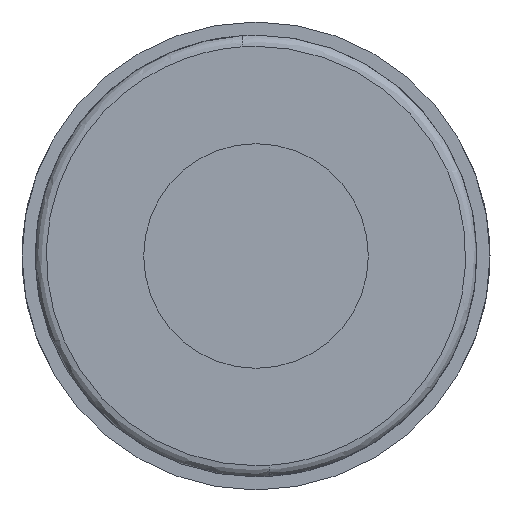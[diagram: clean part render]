
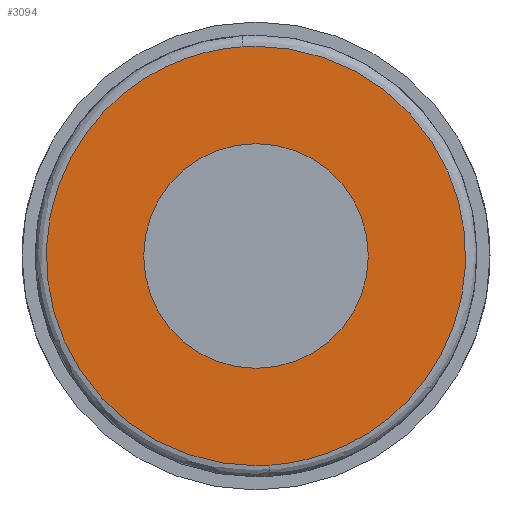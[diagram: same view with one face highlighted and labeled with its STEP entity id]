
A CAD part, left-side view. The second image highlights one B-rep face of the part: STEP entity #3094.
In plain terms, the highlighted planar face has unit normal (-1, 0, 0).
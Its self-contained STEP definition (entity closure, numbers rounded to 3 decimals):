
#88 = CARTESIAN_POINT ( 'NONE',  ( -21.25, -0.346, -5.589 ) ) ;
#107 = ORIENTED_EDGE ( 'NONE', *, *, #479, .F. ) ;
#115 = CARTESIAN_POINT ( 'NONE',  ( -21.25, -0.346, -5.589 ) ) ;
#128 = PLANE ( 'NONE',  #3159 ) ;
#191 = ORIENTED_EDGE ( 'NONE', *, *, #1093, .F. ) ;
#259 = CARTESIAN_POINT ( 'NONE',  ( -21.25, 0.231, 5.596 ) ) ;
#393 = CARTESIAN_POINT ( 'NONE',  ( -21.25, 0., 5.6 ) ) ;
#479 = EDGE_CURVE ( 'NONE', #1384, #2376, #1176, .T. ) ;
#485 = CARTESIAN_POINT ( 'NONE',  ( -21.25, 0.346, 5.589 ) ) ;
#521 =( BOUNDED_CURVE ( )  B_SPLINE_CURVE ( 3, ( #88, #3204, #3466, #1161 ),
 .UNSPECIFIED., .F., .T. ) 
 B_SPLINE_CURVE_WITH_KNOTS ( ( 4, 4 ),
 ( 0.98, 1. ),
 .UNSPECIFIED. ) 
 CURVE ( )  GEOMETRIC_REPRESENTATION_ITEM ( )  RATIONAL_B_SPLINE_CURVE ( ( 1., 1., 1., 1. ) ) 
 REPRESENTATION_ITEM ( '' )  );
#536 = VERTEX_POINT ( 'NONE', #2938 ) ;
#555 = CARTESIAN_POINT ( 'NONE',  ( -21.25, 0., -3. ) ) ;
#558 = CIRCLE ( 'NONE', #1034, 3. ) ;
#581 = AXIS2_PLACEMENT_3D ( 'NONE', #3071, #1114, #2500 ) ;
#648 = CARTESIAN_POINT ( 'NONE',  ( -21.25, -10.869, -4.938 ) ) ;
#872 = ORIENTED_EDGE ( 'NONE', *, *, #2475, .T. ) ;
#876 = CARTESIAN_POINT ( 'NONE',  ( -21.25, 0.346, 5.589 ) ) ;
#912 = EDGE_LOOP ( 'NONE', ( #191, #915, #107, #3356 ) ) ;
#915 = ORIENTED_EDGE ( 'NONE', *, *, #3186, .F. ) ;
#930 = VERTEX_POINT ( 'NONE', #555 ) ;
#1010 = CARTESIAN_POINT ( 'NONE',  ( -21.25, 0., 5.6 ) ) ;
#1034 = AXIS2_PLACEMENT_3D ( 'NONE', #2252, #1983, #2002 ) ;
#1067 = CARTESIAN_POINT ( 'NONE',  ( -21.25, 6.1, 6.1 ) ) ;
#1093 = EDGE_CURVE ( 'NONE', #1268, #2250, #3418, .T. ) ;
#1114 = DIRECTION ( 'NONE',  ( 1., 0., 0. ) ) ;
#1161 = CARTESIAN_POINT ( 'NONE',  ( -21.25, 0., -5.6 ) ) ;
#1176 =( BOUNDED_CURVE ( )  B_SPLINE_CURVE ( 3, ( #3566, #3267, #2443, #485 ),
 .UNSPECIFIED., .F., .T. ) 
 B_SPLINE_CURVE_WITH_KNOTS ( ( 4, 4 ),
 ( 0., 0.98 ),
 .UNSPECIFIED. ) 
 CURVE ( )  GEOMETRIC_REPRESENTATION_ITEM ( )  RATIONAL_B_SPLINE_CURVE ( ( 1., 0.354, 0.354, 1. ) ) 
 REPRESENTATION_ITEM ( '' )  );
#1268 = VERTEX_POINT ( 'NONE', #1010 ) ;
#1291 = CIRCLE ( 'NONE', #581, 3. ) ;
#1362 = EDGE_CURVE ( 'NONE', #536, #930, #1291, .T. ) ;
#1376 = FACE_OUTER_BOUND ( 'NONE', #912, .T. ) ;
#1384 = VERTEX_POINT ( 'NONE', #3054 ) ;
#1626 = DIRECTION ( 'NONE',  ( -1., 0., 0. ) ) ;
#1939 =( BOUNDED_CURVE ( )  B_SPLINE_CURVE ( 3, ( #876, #259, #3359, #1970 ),
 .UNSPECIFIED., .F., .T. ) 
 B_SPLINE_CURVE_WITH_KNOTS ( ( 4, 4 ),
 ( 0.98, 1. ),
 .UNSPECIFIED. ) 
 CURVE ( )  GEOMETRIC_REPRESENTATION_ITEM ( )  RATIONAL_B_SPLINE_CURVE ( ( 1., 1., 1., 1. ) ) 
 REPRESENTATION_ITEM ( '' )  );
#1970 = CARTESIAN_POINT ( 'NONE',  ( -21.25, 0., 5.6 ) ) ;
#1983 = DIRECTION ( 'NONE',  ( 1., 0., 0. ) ) ;
#2002 = DIRECTION ( 'NONE',  ( 0., 0., -1. ) ) ;
#2191 = FACE_BOUND ( 'NONE', #3081, .T. ) ;
#2250 = VERTEX_POINT ( 'NONE', #3503 ) ;
#2252 = CARTESIAN_POINT ( 'NONE',  ( -21.25, 0., 0. ) ) ;
#2376 = VERTEX_POINT ( 'NONE', #2993 ) ;
#2443 = CARTESIAN_POINT ( 'NONE',  ( -21.25, 10.869, 4.938 ) ) ;
#2475 = EDGE_CURVE ( 'NONE', #930, #536, #558, .T. ) ;
#2500 = DIRECTION ( 'NONE',  ( 0., 0., -1. ) ) ;
#2885 = ORIENTED_EDGE ( 'NONE', *, *, #1362, .T. ) ;
#2886 = CARTESIAN_POINT ( 'NONE',  ( -21.25, -10.543, 5.6 ) ) ;
#2917 = EDGE_CURVE ( 'NONE', #2250, #1384, #521, .T. ) ;
#2938 = CARTESIAN_POINT ( 'NONE',  ( -21.25, 0., 3. ) ) ;
#2993 = CARTESIAN_POINT ( 'NONE',  ( -21.25, 0.346, 5.589 ) ) ;
#3054 = CARTESIAN_POINT ( 'NONE',  ( -21.25, 0., -5.6 ) ) ;
#3071 = CARTESIAN_POINT ( 'NONE',  ( -21.25, 0., 0. ) ) ;
#3081 = EDGE_LOOP ( 'NONE', ( #872, #2885 ) ) ;
#3094 = ADVANCED_FACE ( '51', ( #2191, #1376 ), #128, .T. ) ;
#3159 = AXIS2_PLACEMENT_3D ( 'NONE', #1067, #1626, #3306 ) ;
#3186 = EDGE_CURVE ( 'NONE', #2376, #1268, #1939, .T. ) ;
#3204 = CARTESIAN_POINT ( 'NONE',  ( -21.25, -0.231, -5.596 ) ) ;
#3267 = CARTESIAN_POINT ( 'NONE',  ( -21.25, 10.543, -5.6 ) ) ;
#3306 = DIRECTION ( 'NONE',  ( 0., 0., 1. ) ) ;
#3356 = ORIENTED_EDGE ( 'NONE', *, *, #2917, .F. ) ;
#3359 = CARTESIAN_POINT ( 'NONE',  ( -21.25, 0.115, 5.6 ) ) ;
#3418 =( BOUNDED_CURVE ( )  B_SPLINE_CURVE ( 3, ( #393, #2886, #648, #115 ),
 .UNSPECIFIED., .F., .T. ) 
 B_SPLINE_CURVE_WITH_KNOTS ( ( 4, 4 ),
 ( 0., 0.98 ),
 .UNSPECIFIED. ) 
 CURVE ( )  GEOMETRIC_REPRESENTATION_ITEM ( )  RATIONAL_B_SPLINE_CURVE ( ( 1., 0.354, 0.354, 1. ) ) 
 REPRESENTATION_ITEM ( '' )  );
#3466 = CARTESIAN_POINT ( 'NONE',  ( -21.25, -0.115, -5.6 ) ) ;
#3503 = CARTESIAN_POINT ( 'NONE',  ( -21.25, -0.346, -5.589 ) ) ;
#3566 = CARTESIAN_POINT ( 'NONE',  ( -21.25, 0., -5.6 ) ) ;
